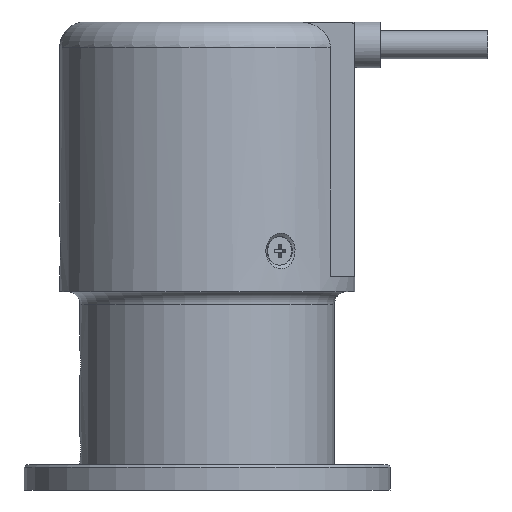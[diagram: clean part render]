
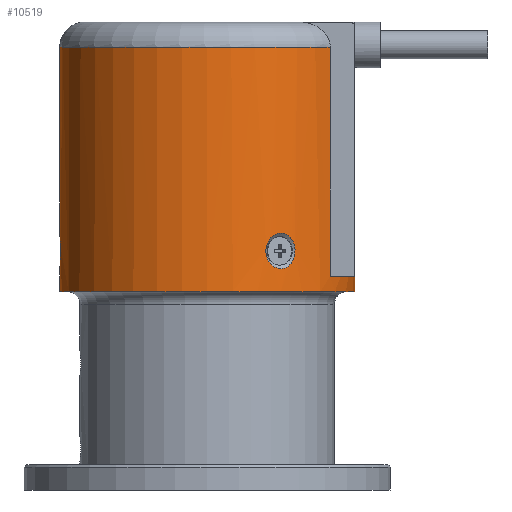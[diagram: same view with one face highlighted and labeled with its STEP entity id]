
A CAD part, left-side view. The second image highlights one B-rep face of the part: STEP entity #10519.
In plain terms, the highlighted cylindrical face has radius 29 mm (diameter 58 mm), a full revolution.
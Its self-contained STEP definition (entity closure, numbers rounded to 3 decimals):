
#435=LINE('',#14678,#948);
#438=LINE('',#14684,#951);
#948=VECTOR('',#12238,1000.);
#951=VECTOR('',#12243,1000.);
#1280=B_SPLINE_CURVE_WITH_KNOTS('',3,(#14528,#14529,#14530,#14531,#14532,
#14533,#14534,#14535,#14536,#14537,#14538,#14539,#14540,#14541),
 .UNSPECIFIED.,.T.,.F.,(1,1,1,1,1,1,1,1,1,1,1,1,1,1,1,1,1,1),(-0.005,
-0.004,-0.003,0.,0.003,0.005,
0.007,0.008,0.009,0.011,
0.013,0.016,0.017,0.019,
0.021,0.024,0.027,0.028),
 .UNSPECIFIED.);
#1284=B_SPLINE_CURVE_WITH_KNOTS('',3,(#14723,#14724,#14725,#14726,#14727,
#14728,#14729,#14730,#14731,#14732,#14733,#14734,#14735,#14736),
 .UNSPECIFIED.,.T.,.F.,(1,1,1,1,1,1,1,1,1,1,1,1,1,1,1,1,1,1),(-0.005,
-0.004,-0.003,0.,0.003,0.005,
0.007,0.008,0.009,0.011,
0.013,0.016,0.017,0.019,
0.021,0.024,0.027,0.028),
 .UNSPECIFIED.);
#1285=B_SPLINE_CURVE_WITH_KNOTS('',3,(#14742,#14743,#14744,#14745,#14746,
#14747,#14748,#14749,#14750,#14751,#14752,#14753,#14754,#14755),
 .UNSPECIFIED.,.T.,.F.,(1,1,1,1,1,1,1,1,1,1,1,1,1,1,1,1,1,1),(-0.005,
-0.004,-0.003,0.,0.003,0.005,
0.007,0.008,0.009,0.011,
0.013,0.016,0.017,0.019,
0.021,0.024,0.027,0.028),
 .UNSPECIFIED.);
#1484=CYLINDRICAL_SURFACE('',#11210,29.);
#2749=ORIENTED_EDGE('',*,*,#3678,.T.);
#2750=ORIENTED_EDGE('',*,*,#3857,.T.);
#2751=ORIENTED_EDGE('',*,*,#3850,.T.);
#2752=ORIENTED_EDGE('',*,*,#3770,.F.);
#2753=ORIENTED_EDGE('',*,*,#3853,.F.);
#2754=ORIENTED_EDGE('',*,*,#4142,.F.);
#2755=ORIENTED_EDGE('',*,*,#3785,.F.);
#2756=ORIENTED_EDGE('',*,*,#3864,.F.);
#2757=ORIENTED_EDGE('',*,*,#3866,.F.);
#3678=EDGE_CURVE('',#4638,#4639,#5333,.T.);
#3770=EDGE_CURVE('',#4718,#4720,#5356,.T.);
#3785=EDGE_CURVE('',#4733,#4733,#1280,.T.);
#3850=EDGE_CURVE('',#4770,#4720,#435,.T.);
#3853=EDGE_CURVE('',#4638,#4718,#438,.T.);
#3857=EDGE_CURVE('',#4639,#4770,#5370,.T.);
#3864=EDGE_CURVE('',#4775,#4775,#1284,.T.);
#3866=EDGE_CURVE('',#4777,#4777,#1285,.T.);
#4142=EDGE_CURVE('',#4959,#4959,#5432,.T.);
#4638=VERTEX_POINT('',#14247);
#4639=VERTEX_POINT('',#14248);
#4718=VERTEX_POINT('',#14487);
#4720=VERTEX_POINT('',#14490);
#4733=VERTEX_POINT('',#14542);
#4770=VERTEX_POINT('',#14679);
#4775=VERTEX_POINT('',#14737);
#4777=VERTEX_POINT('',#14756);
#4959=VERTEX_POINT('',#23008);
#5333=CIRCLE('',#10939,29.);
#5356=CIRCLE('',#10984,29.);
#5370=CIRCLE('',#11032,29.);
#5432=CIRCLE('',#11209,29.);
#5937=EDGE_LOOP('',(#2749,#2750,#2751,#2752,#2753));
#5938=EDGE_LOOP('',(#2754));
#5939=EDGE_LOOP('',(#2755));
#5940=EDGE_LOOP('',(#2756));
#5941=EDGE_LOOP('',(#2757));
#6665=FACE_BOUND('',#5937,.T.);
#6666=FACE_BOUND('',#5938,.T.);
#6667=FACE_BOUND('',#5939,.T.);
#6668=FACE_BOUND('',#5940,.T.);
#6669=FACE_BOUND('',#5941,.T.);
#10519=ADVANCED_FACE('',(#6665,#6666,#6667,#6668,#6669),#1484,.T.);
#10939=AXIS2_PLACEMENT_3D('',#14246,#11940,#11941);
#10984=AXIS2_PLACEMENT_3D('',#14489,#12087,#12088);
#11032=AXIS2_PLACEMENT_3D('',#14691,#12253,#12254);
#11209=AXIS2_PLACEMENT_3D('',#23007,#12739,#12740);
#11210=AXIS2_PLACEMENT_3D('',#23009,#12741,#12742);
#11940=DIRECTION('',(0.,0.,-1.));
#11941=DIRECTION('',(-1.,0.,0.));
#12087=DIRECTION('',(0.,0.,1.));
#12088=DIRECTION('',(1.,0.,0.));
#12238=DIRECTION('',(0.,0.,1.));
#12243=DIRECTION('',(0.,0.,1.));
#12253=DIRECTION('',(0.,0.,-1.));
#12254=DIRECTION('',(-1.,0.,0.));
#12739=DIRECTION('',(0.,0.,-1.));
#12740=DIRECTION('',(-1.,0.,0.));
#12741=DIRECTION('',(0.,0.,-1.));
#12742=DIRECTION('',(-1.,0.,0.));
#14246=CARTESIAN_POINT('',(0.,0.,-61.948));
#14247=CARTESIAN_POINT('',(16.,-24.187,-61.948));
#14248=CARTESIAN_POINT('',(0.,-29.,-61.948));
#14487=CARTESIAN_POINT('',(16.,-24.187,-16.948));
#14489=CARTESIAN_POINT('',(0.,0.,-16.948));
#14490=CARTESIAN_POINT('',(-16.,-24.187,-16.948));
#14528=CARTESIAN_POINT('',(-0.491,29.023,-60.642));
#14529=CARTESIAN_POINT('',(-2.678,28.897,-59.596));
#14530=CARTESIAN_POINT('',(-3.644,28.766,-56.895));
#14531=CARTESIAN_POINT('',(-2.78,28.879,-54.683));
#14532=CARTESIAN_POINT('',(-1.3,28.98,-53.627));
#14533=CARTESIAN_POINT('',(0.039,29.011,-53.35));
#14534=CARTESIAN_POINT('',(1.376,28.976,-53.661));
#14535=CARTESIAN_POINT('',(2.831,28.873,-54.755));
#14536=CARTESIAN_POINT('',(3.646,28.767,-56.993));
#14537=CARTESIAN_POINT('',(2.782,28.879,-59.211));
#14538=CARTESIAN_POINT('',(1.302,28.98,-60.268));
#14539=CARTESIAN_POINT('',(-0.491,29.023,-60.642));
#14540=CARTESIAN_POINT('',(-2.678,28.897,-59.596));
#14541=CARTESIAN_POINT('',(-3.644,28.766,-56.895));
#14542=CARTESIAN_POINT('',(-2.402,28.9,-59.355));
#14678=CARTESIAN_POINT('',(-16.,-24.187,-62.058));
#14679=CARTESIAN_POINT('',(-16.,-24.187,-61.948));
#14684=CARTESIAN_POINT('',(16.,-24.187,-62.058));
#14691=CARTESIAN_POINT('',(0.,0.,-61.948));
#14723=CARTESIAN_POINT('',(-24.889,-14.936,-60.642));
#14724=CARTESIAN_POINT('',(-23.686,-16.768,-59.596));
#14725=CARTESIAN_POINT('',(-23.09,-17.539,-56.895));
#14726=CARTESIAN_POINT('',(-23.62,-16.847,-54.683));
#14727=CARTESIAN_POINT('',(-24.447,-15.616,-53.627));
#14728=CARTESIAN_POINT('',(-25.144,-14.471,-53.35));
#14729=CARTESIAN_POINT('',(-25.782,-13.296,-53.661));
#14730=CARTESIAN_POINT('',(-26.42,-11.985,-54.755));
#14731=CARTESIAN_POINT('',(-26.736,-11.226,-56.993));
#14732=CARTESIAN_POINT('',(-26.401,-12.03,-59.211));
#14733=CARTESIAN_POINT('',(-25.748,-13.362,-60.268));
#14734=CARTESIAN_POINT('',(-24.889,-14.936,-60.642));
#14735=CARTESIAN_POINT('',(-23.686,-16.768,-59.596));
#14736=CARTESIAN_POINT('',(-23.09,-17.539,-56.895));
#14737=CARTESIAN_POINT('',(-23.828,-16.53,-59.355));
#14742=CARTESIAN_POINT('',(25.38,-14.086,-60.642));
#14743=CARTESIAN_POINT('',(26.365,-12.129,-59.596));
#14744=CARTESIAN_POINT('',(26.734,-11.227,-56.895));
#14745=CARTESIAN_POINT('',(26.4,-12.032,-54.683));
#14746=CARTESIAN_POINT('',(25.748,-13.364,-53.627));
#14747=CARTESIAN_POINT('',(25.105,-14.539,-53.35));
#14748=CARTESIAN_POINT('',(24.406,-15.68,-53.661));
#14749=CARTESIAN_POINT('',(23.589,-16.888,-54.755));
#14750=CARTESIAN_POINT('',(23.09,-17.541,-56.993));
#14751=CARTESIAN_POINT('',(23.619,-16.848,-59.211));
#14752=CARTESIAN_POINT('',(24.446,-15.617,-60.268));
#14753=CARTESIAN_POINT('',(25.38,-14.086,-60.642));
#14754=CARTESIAN_POINT('',(26.365,-12.129,-59.596));
#14755=CARTESIAN_POINT('',(26.734,-11.227,-56.895));
#14756=CARTESIAN_POINT('',(26.229,-12.37,-59.355));
#23007=CARTESIAN_POINT('',(0.,0.,-64.948));
#23008=CARTESIAN_POINT('',(-29.,0.,-64.948));
#23009=CARTESIAN_POINT('',(0.,0.,-74.948));
